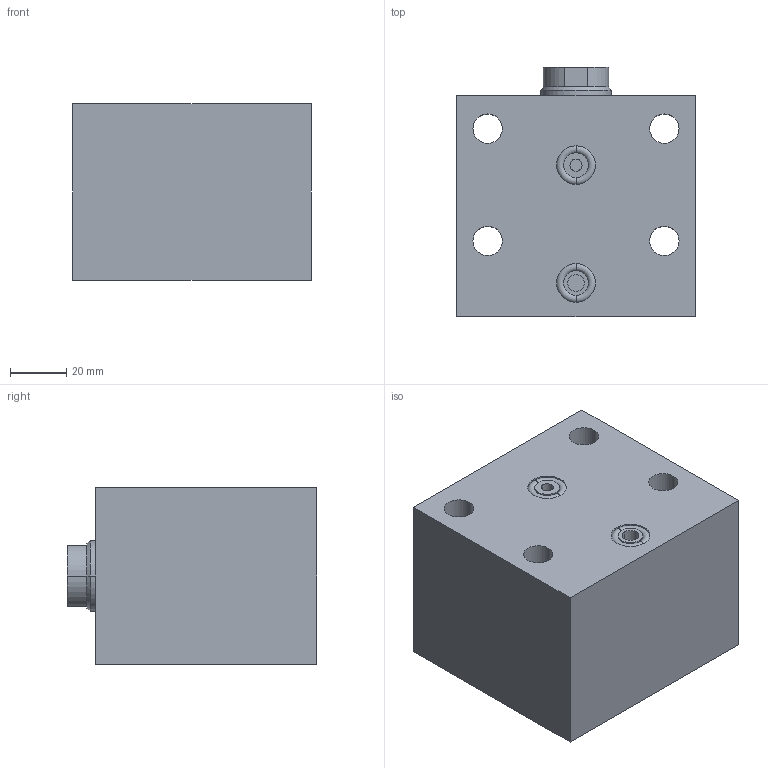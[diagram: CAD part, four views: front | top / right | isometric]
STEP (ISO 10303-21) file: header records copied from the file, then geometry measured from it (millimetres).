
FILE_DESCRIPTION (( 'STEP AP203' ), '1' );
FILE_NAME ('GERMA_Blockzylinder_603-040-025.STEP', '2016-04-06T15:56:34', ( '' ), ( '' ), 'SwSTEP 2.0', 'SolidWorks 2015', '' );
FILE_SCHEMA (( 'CONFIG_CONTROL_DESIGN' ));
Length unit declared in the file: millimetre
Products named in the file (3): GH-600-040_GH-603-040-025; Kolben 60x-040_Kolben DU.40-Hub25-IG; GERMA_Blockzylinder_603-040-025
Assembly tree (2 placements, depth 2):
  GERMA_Blockzylinder_603-040-025
    GH-600-040_GH-603-040-025
    Kolben 60x-040_Kolben DU.40-Hub25-IG
Bounding box: 85 x 89 x 63 mm (x, y, z)
Volume: 380941.8 mm3; surface area: 61640.8 mm2
Topology: 2 solids, 2 shells, 81 faces, 176 edges, 106 vertices
Faces by surface type: cylinder 41, plane 22, cone 14, torus 4
Entity records: 2506 total; most frequent: DIRECTION 439, CARTESIAN_POINT 362, ORIENTED_EDGE 340, AXIS2_PLACEMENT_3D 183, EDGE_CURVE 170, VERTEX_POINT 106, EDGE_LOOP 102, CIRCLE 97
